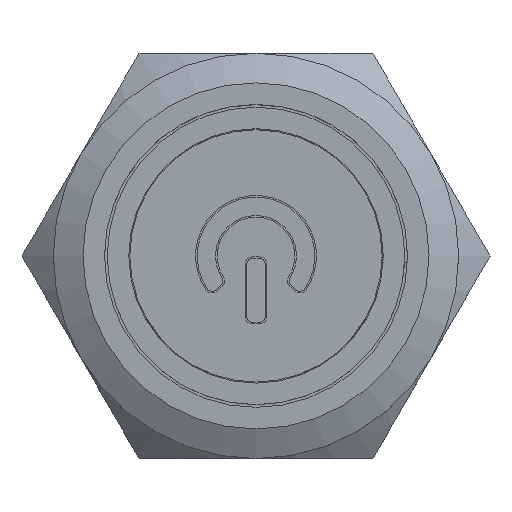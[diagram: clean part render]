
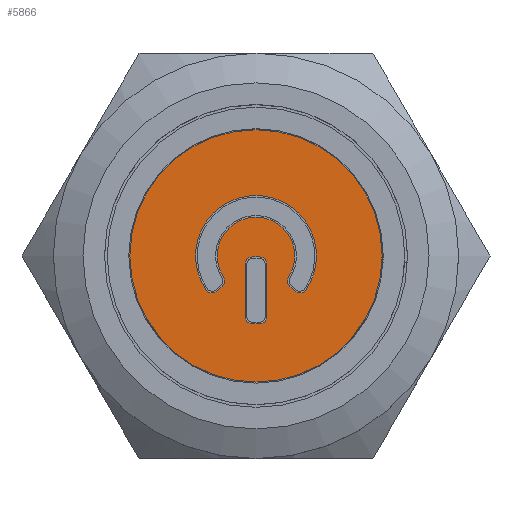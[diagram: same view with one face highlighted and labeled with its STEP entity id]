
A CAD part, top view. The second image highlights one B-rep face of the part: STEP entity #5866.
In plain terms, the highlighted planar face has unit normal (0, 0, 1).
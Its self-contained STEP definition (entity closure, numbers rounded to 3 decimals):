
#1076=CIRCLE('',#24162,0.35);
#1078=CIRCLE('',#24166,0.35);
#1080=CIRCLE('',#24170,0.35);
#1082=CIRCLE('',#24174,0.35);
#1084=CIRCLE('',#24177,2.8);
#1086=CIRCLE('',#24180,0.35);
#1088=CIRCLE('',#24184,0.35);
#1090=CIRCLE('',#24187,1.8);
#1092=CIRCLE('',#24190,0.35);
#1094=CIRCLE('',#24194,5.85);
#1096=CIRCLE('',#24197,0.35);
#4865=FACE_BOUND('',#7940,.T.);
#4866=FACE_BOUND('',#7941,.T.);
#4867=FACE_BOUND('',#7942,.T.);
#5097=PLANE('',#24200);
#5866=ADVANCED_FACE('',(#4865,#4866,#4867),#5097,.T.);
#7940=EDGE_LOOP('',(#13771));
#7941=EDGE_LOOP('',(#13772,#13773,#13774,#13775,#13776,#13777,#13778,#13779));
#7942=EDGE_LOOP('',(#13780,#13781,#13782,#13783,#13784,#13785,#13786,#13787));
#9057=LINE('',#34319,#11055);
#9062=LINE('',#34333,#11060);
#9066=LINE('',#34345,#11064);
#9070=LINE('',#34357,#11068);
#9077=LINE('',#34384,#11075);
#9082=LINE('',#34405,#11080);
#11055=VECTOR('',#26203,1.);
#11060=VECTOR('',#26216,1.);
#11064=VECTOR('',#26228,1.);
#11068=VECTOR('',#26240,1.);
#11075=VECTOR('',#26267,1.);
#11080=VECTOR('',#26292,1.);
#13771=ORIENTED_EDGE('',*,*,#21069,.T.);
#13772=ORIENTED_EDGE('',*,*,#21047,.F.);
#13773=ORIENTED_EDGE('',*,*,#21050,.F.);
#13774=ORIENTED_EDGE('',*,*,#21053,.F.);
#13775=ORIENTED_EDGE('',*,*,#21056,.F.);
#13776=ORIENTED_EDGE('',*,*,#21059,.F.);
#13777=ORIENTED_EDGE('',*,*,#21062,.F.);
#13778=ORIENTED_EDGE('',*,*,#21065,.F.);
#13779=ORIENTED_EDGE('',*,*,#21067,.F.);
#13780=ORIENTED_EDGE('',*,*,#21024,.T.);
#13781=ORIENTED_EDGE('',*,*,#21028,.T.);
#13782=ORIENTED_EDGE('',*,*,#21031,.T.);
#13783=ORIENTED_EDGE('',*,*,#21034,.T.);
#13784=ORIENTED_EDGE('',*,*,#21037,.T.);
#13785=ORIENTED_EDGE('',*,*,#21040,.T.);
#13786=ORIENTED_EDGE('',*,*,#21043,.T.);
#13787=ORIENTED_EDGE('',*,*,#21071,.T.);
#18993=VERTEX_POINT('',#34318);
#18994=VERTEX_POINT('',#34320);
#18996=VERTEX_POINT('',#34326);
#18998=VERTEX_POINT('',#34332);
#19000=VERTEX_POINT('',#34338);
#19002=VERTEX_POINT('',#34344);
#19004=VERTEX_POINT('',#34350);
#19006=VERTEX_POINT('',#34356);
#19008=VERTEX_POINT('',#34361);
#19010=VERTEX_POINT('',#34365);
#19012=VERTEX_POINT('',#34371);
#19014=VERTEX_POINT('',#34377);
#19016=VERTEX_POINT('',#34383);
#19018=VERTEX_POINT('',#34389);
#19020=VERTEX_POINT('',#34395);
#19022=VERTEX_POINT('',#34401);
#19024=VERTEX_POINT('',#34410);
#21024=EDGE_CURVE('',#18994,#18993,#9057,.T.);
#21028=EDGE_CURVE('',#18993,#18996,#1076,.T.);
#21031=EDGE_CURVE('',#18996,#18998,#9062,.T.);
#21034=EDGE_CURVE('',#18998,#19000,#1078,.T.);
#21037=EDGE_CURVE('',#19000,#19002,#9066,.T.);
#21040=EDGE_CURVE('',#19002,#19004,#1080,.T.);
#21043=EDGE_CURVE('',#19004,#19006,#9070,.T.);
#21047=EDGE_CURVE('',#19010,#19008,#1082,.T.);
#21050=EDGE_CURVE('',#19012,#19010,#1084,.T.);
#21053=EDGE_CURVE('',#19014,#19012,#1086,.T.);
#21056=EDGE_CURVE('',#19016,#19014,#9077,.T.);
#21059=EDGE_CURVE('',#19018,#19016,#1088,.T.);
#21062=EDGE_CURVE('',#19020,#19018,#1090,.T.);
#21065=EDGE_CURVE('',#19022,#19020,#1092,.T.);
#21067=EDGE_CURVE('',#19008,#19022,#9082,.T.);
#21069=EDGE_CURVE('',#19024,#19024,#1094,.T.);
#21071=EDGE_CURVE('',#19006,#18994,#1096,.T.);
#24162=AXIS2_PLACEMENT_3D('',#34327,#26210,#26211);
#24166=AXIS2_PLACEMENT_3D('',#34339,#26222,#26223);
#24170=AXIS2_PLACEMENT_3D('',#34351,#26234,#26235);
#24174=AXIS2_PLACEMENT_3D('',#34366,#26247,#26248);
#24177=AXIS2_PLACEMENT_3D('',#34372,#26254,#26255);
#24180=AXIS2_PLACEMENT_3D('',#34378,#26261,#26262);
#24184=AXIS2_PLACEMENT_3D('',#34390,#26273,#26274);
#24187=AXIS2_PLACEMENT_3D('',#34396,#26280,#26281);
#24190=AXIS2_PLACEMENT_3D('',#34402,#26287,#26288);
#24194=AXIS2_PLACEMENT_3D('',#34409,#26297,#26298);
#24197=AXIS2_PLACEMENT_3D('',#34413,#26303,#26304);
#24200=AXIS2_PLACEMENT_3D('',#34416,#26309,#26310);
#26203=DIRECTION('',(0.,1.,0.));
#26210=DIRECTION('',(0.,0.,-1.));
#26211=DIRECTION('',(1.,0.,0.));
#26216=DIRECTION('',(1.,0.,0.));
#26222=DIRECTION('',(0.,0.,-1.));
#26223=DIRECTION('',(1.,0.,0.));
#26228=DIRECTION('',(0.,-1.,0.));
#26234=DIRECTION('',(0.,0.,-1.));
#26235=DIRECTION('',(1.,0.,0.));
#26240=DIRECTION('',(-1.,0.,0.));
#26247=DIRECTION('',(0.,0.,1.));
#26248=DIRECTION('',(1.,0.,0.));
#26254=DIRECTION('',(0.,0.,1.));
#26255=DIRECTION('',(1.,0.,0.));
#26261=DIRECTION('',(0.,0.,1.));
#26262=DIRECTION('',(1.,0.,0.));
#26267=DIRECTION('',(0.743,-0.67,0.));
#26273=DIRECTION('',(0.,0.,1.));
#26274=DIRECTION('',(1.,0.,0.));
#26280=DIRECTION('',(0.,0.,-1.));
#26281=DIRECTION('',(1.,0.,0.));
#26287=DIRECTION('',(0.,0.,1.));
#26288=DIRECTION('',(1.,0.,0.));
#26292=DIRECTION('',(0.743,0.67,0.));
#26297=DIRECTION('',(0.,0.,1.));
#26298=DIRECTION('',(1.,0.,0.));
#26303=DIRECTION('',(0.,0.,-1.));
#26304=DIRECTION('',(1.,0.,0.));
#26309=DIRECTION('',(0.,0.,1.));
#26310=DIRECTION('',(1.,0.,0.));
#34318=CARTESIAN_POINT('',(16.599,-14.742,15.35));
#34319=CARTESIAN_POINT('',(16.599,-17.142,15.35));
#34320=CARTESIAN_POINT('',(16.599,-17.142,15.35));
#34326=CARTESIAN_POINT('',(16.949,-14.392,15.35));
#34327=CARTESIAN_POINT('',(16.949,-14.742,15.35));
#34332=CARTESIAN_POINT('',(17.249,-14.392,15.35));
#34333=CARTESIAN_POINT('',(16.949,-14.392,15.35));
#34338=CARTESIAN_POINT('',(17.599,-14.742,15.35));
#34339=CARTESIAN_POINT('',(17.249,-14.742,15.35));
#34344=CARTESIAN_POINT('',(17.599,-17.142,15.35));
#34345=CARTESIAN_POINT('',(17.599,-14.742,15.35));
#34350=CARTESIAN_POINT('',(17.249,-17.492,15.35));
#34351=CARTESIAN_POINT('',(17.249,-17.142,15.35));
#34356=CARTESIAN_POINT('',(16.949,-17.492,15.35));
#34357=CARTESIAN_POINT('',(17.249,-17.492,15.35));
#34361=CARTESIAN_POINT('',(15.297,-15.965,15.35));
#34365=CARTESIAN_POINT('',(14.772,-15.9,15.35));
#34366=CARTESIAN_POINT('',(15.063,-15.705,15.35));
#34371=CARTESIAN_POINT('',(19.425,-15.9,15.35));
#34372=CARTESIAN_POINT('',(17.099,-14.342,15.35));
#34377=CARTESIAN_POINT('',(18.9,-15.965,15.35));
#34378=CARTESIAN_POINT('',(19.134,-15.705,15.35));
#34383=CARTESIAN_POINT('',(18.674,-15.762,15.35));
#34384=CARTESIAN_POINT('',(18.674,-15.762,15.35));
#34389=CARTESIAN_POINT('',(18.614,-15.313,15.35));
#34390=CARTESIAN_POINT('',(18.909,-15.502,15.35));
#34395=CARTESIAN_POINT('',(15.583,-15.313,15.35));
#34396=CARTESIAN_POINT('',(17.099,-14.342,15.35));
#34401=CARTESIAN_POINT('',(15.523,-15.762,15.35));
#34402=CARTESIAN_POINT('',(15.289,-15.502,15.35));
#34405=CARTESIAN_POINT('',(15.297,-15.965,15.35));
#34409=CARTESIAN_POINT('',(17.099,-14.342,15.35));
#34410=CARTESIAN_POINT('',(22.949,-14.342,15.35));
#34413=CARTESIAN_POINT('',(16.949,-17.142,15.35));
#34416=CARTESIAN_POINT('',(17.099,-14.342,15.35));
